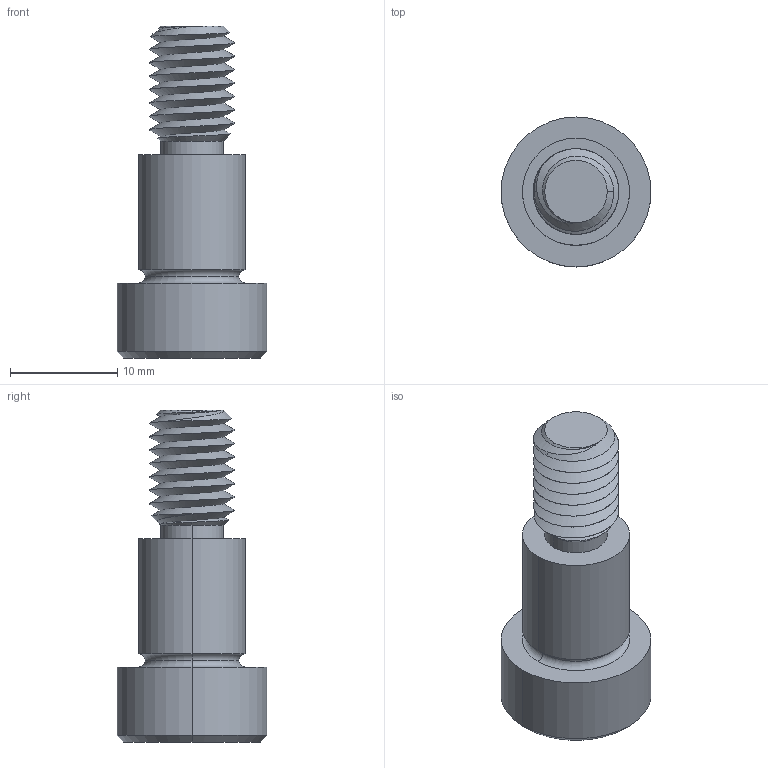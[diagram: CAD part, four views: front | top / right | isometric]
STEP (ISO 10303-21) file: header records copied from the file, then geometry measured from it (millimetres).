
FILE_DESCRIPTION (( 'STEP AP203' ), '1' );
FILE_NAME ('P0130.100-012-B8.step', '2021-11-09T21:50:31', ( '' ), ( '' ), 'SwSTEP 2.0', 'SolidWorks 2019', '' );
FILE_SCHEMA (( 'CONFIG_CONTROL_DESIGN' ));
Length unit declared in the file: millimetre
Products named in the file (1): P0130.100-012-B8
Bounding box: 14 x 14 x 31 mm (x, y, z)
Volume: 2310.4 mm3; surface area: 1555.2 mm2
Topology: 1 solids, 1 shells, 58 faces, 136 edges, 81 vertices
Faces by surface type: cylinder 20, cone 16, plane 16, torus 4, bspline 2
Entity records: 4248 total; most frequent: CARTESIAN_POINT 2944, ORIENTED_EDGE 268, DIRECTION 241, EDGE_CURVE 134, AXIS2_PLACEMENT_3D 97, VERTEX_POINT 81, EDGE_LOOP 61, ADVANCED_FACE 58
